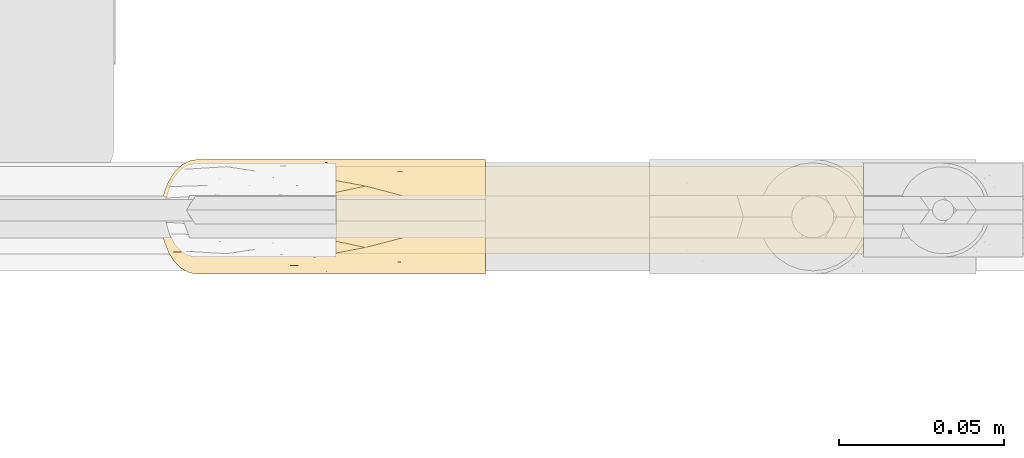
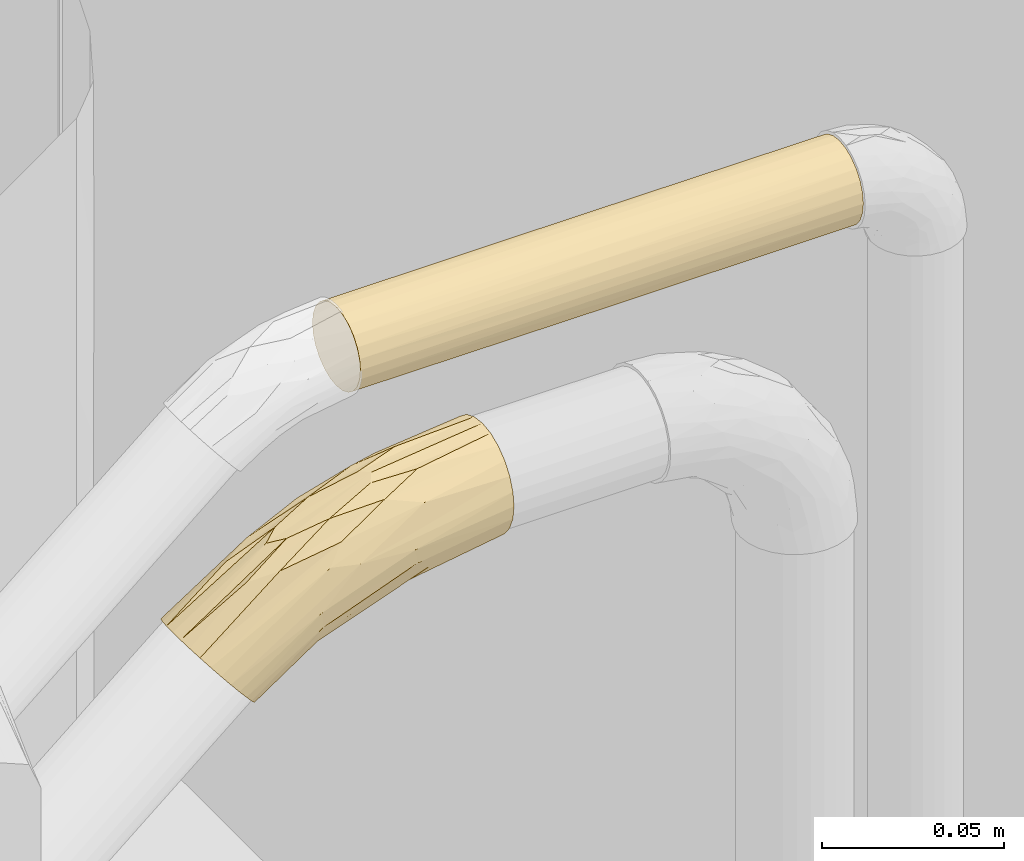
# One storey, part 4 of 32: 2 coverings.
"""IFC2X3 building model written with IfcOpenShell, lengths in metres."""

from ifc_helpers import new_model, entity, si_unit, converted_unit, derived_unit, direction, frame, origin, place, context, subcontext, project, spatial, faceted_brep, material, type_object, element, save


model = new_model("IFC2X3")

# Units and contexts
model_context = context("Model", 3, precision=1e-05, world=origin(), true_north=direction((6.123031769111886e-17, 1.0)))
body_context = subcontext(model_context, "Body", "Model", "MODEL_VIEW")
ifc_project = project(units=[si_unit("LENGTHUNIT", "METRE"), si_unit("AREAUNIT", "SQUARE_METRE"), si_unit("VOLUMEUNIT", "CUBIC_METRE"), converted_unit("PLANEANGLEUNIT", "DEGREE", entity("IfcPlaneAngleMeasure", 0.017453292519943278), si_unit("PLANEANGLEUNIT", "RADIAN"), dimensions=[0, 0, 0, 0, 0, 0, 0]), si_unit("MASSUNIT", "GRAM", prefix="KILO"), derived_unit("MASSDENSITYUNIT", [(si_unit("MASSUNIT", "GRAM", prefix="KILO"), 1), (si_unit("LENGTHUNIT", "METRE"), -3)]), derived_unit("IONCONCENTRATIONUNIT", [(si_unit("MASSUNIT", "GRAM", prefix="KILO"), 1), (si_unit("LENGTHUNIT", "METRE"), -3)]), derived_unit("MOMENTOFINERTIAUNIT", [(si_unit("LENGTHUNIT", "METRE"), 4)]), si_unit("TIMEUNIT", "SECOND"), si_unit("FREQUENCYUNIT", "HERTZ"), si_unit("THERMODYNAMICTEMPERATUREUNIT", "DEGREE_CELSIUS"), derived_unit("THERMALTRANSMITTANCEUNIT", [(si_unit("MASSUNIT", "GRAM", prefix="KILO"), 1), (si_unit("THERMODYNAMICTEMPERATUREUNIT", "KELVIN"), -1), (si_unit("TIMEUNIT", "SECOND"), -3)]), derived_unit("THERMALCONDUCTANCEUNIT", [(si_unit("MASSUNIT", "GRAM", prefix="KILO"), 1), (si_unit("THERMODYNAMICTEMPERATUREUNIT", "KELVIN"), -1), (si_unit("TIMEUNIT", "SECOND"), -3), (si_unit("LENGTHUNIT", "METRE"), 1)]), derived_unit("VOLUMETRICFLOWRATEUNIT", [(si_unit("LENGTHUNIT", "METRE", prefix="DECI"), 3), (si_unit("TIMEUNIT", "SECOND"), -1)]), derived_unit("MASSFLOWRATEUNIT", [(si_unit("MASSUNIT", "GRAM", prefix="KILO"), 1), (si_unit("TIMEUNIT", "SECOND"), -1)]), derived_unit("ROTATIONALFREQUENCYUNIT", [(si_unit("TIMEUNIT", "SECOND"), -1)]), si_unit("ELECTRICCURRENTUNIT", "AMPERE"), si_unit("ELECTRICVOLTAGEUNIT", "VOLT"), si_unit("POWERUNIT", "WATT"), si_unit("FORCEUNIT", "NEWTON", prefix="KILO"), si_unit("ILLUMINANCEUNIT", "LUX"), si_unit("LUMINOUSFLUXUNIT", "LUMEN"), si_unit("LUMINOUSINTENSITYUNIT", "CANDELA"), si_unit("ENERGYUNIT", "JOULE"), derived_unit("USERDEFINED", [(si_unit("MASSUNIT", "GRAM", prefix="KILO"), -1), (si_unit("LENGTHUNIT", "METRE"), -2), (si_unit("TIMEUNIT", "SECOND"), 3), (si_unit("LUMINOUSFLUXUNIT", "LUMEN"), 1)]), derived_unit("USERDEFINED", [(si_unit("MASSUNIT", "GRAM", prefix="KILO"), 1), (si_unit("TIMEUNIT", "SECOND"), -3), (si_unit("LENGTHUNIT", "METRE"), 3), (si_unit("ELECTRICCURRENTUNIT", "AMPERE"), -2)]), derived_unit("SOUNDPOWERUNIT", [(si_unit("MASSUNIT", "GRAM", prefix="KILO"), 1), (si_unit("TIMEUNIT", "SECOND"), -3), (si_unit("LENGTHUNIT", "METRE"), 2)]), derived_unit("SOUNDPRESSUREUNIT", [(si_unit("MASSUNIT", "GRAM", prefix="KILO"), 1), (si_unit("LENGTHUNIT", "METRE"), -1), (si_unit("TIMEUNIT", "SECOND"), -2)]), derived_unit("LINEARVELOCITYUNIT", [(si_unit("LENGTHUNIT", "METRE"), 1), (si_unit("TIMEUNIT", "SECOND"), -1)]), si_unit("PRESSUREUNIT", "PASCAL"), derived_unit("USERDEFINED", [(si_unit("MASSUNIT", "GRAM", prefix="KILO"), 1), (si_unit("LENGTHUNIT", "METRE"), -2), (si_unit("TIMEUNIT", "SECOND"), -2)]), derived_unit("LINEARFORCEUNIT", [(si_unit("MASSUNIT", "GRAM", prefix="KILO"), 1), (si_unit("TIMEUNIT", "SECOND"), -2)]), derived_unit("PLANARFORCEUNIT", [(si_unit("MASSUNIT", "GRAM", prefix="KILO"), 1), (si_unit("LENGTHUNIT", "METRE"), -1), (si_unit("TIMEUNIT", "SECOND"), -2)]), derived_unit("SPECIFICHEATCAPACITYUNIT", [(si_unit("THERMODYNAMICTEMPERATUREUNIT", "KELVIN"), -1), (si_unit("LENGTHUNIT", "METRE"), 2), (si_unit("TIMEUNIT", "SECOND"), -2)]), derived_unit("HEATFLUXDENSITYUNIT", [(si_unit("MASSUNIT", "GRAM", prefix="KILO"), 1), (si_unit("TIMEUNIT", "SECOND"), -3)]), derived_unit("HEATINGVALUEUNIT", [(si_unit("LENGTHUNIT", "METRE"), 2), (si_unit("TIMEUNIT", "SECOND"), -2)]), derived_unit("VAPORPERMEABILITYUNIT", [(si_unit("LENGTHUNIT", "METRE"), -1), (si_unit("TIMEUNIT", "SECOND"), 1)]), derived_unit("DYNAMICVISCOSITYUNIT", [(si_unit("MASSUNIT", "GRAM", prefix="KILO"), 1), (si_unit("TIMEUNIT", "SECOND"), -1), (si_unit("LENGTHUNIT", "METRE"), -1)]), derived_unit("THERMALEXPANSIONCOEFFICIENTUNIT", [(si_unit("THERMODYNAMICTEMPERATUREUNIT", "KELVIN"), -1)]), derived_unit("MODULUSOFELASTICITYUNIT", [(si_unit("MASSUNIT", "GRAM", prefix="KILO"), 1), (si_unit("LENGTHUNIT", "METRE"), -1), (si_unit("TIMEUNIT", "SECOND"), -2)]), derived_unit("ISOTHERMALMOISTURECAPACITYUNIT", [(si_unit("MASSUNIT", "GRAM", prefix="KILO"), -1), (si_unit("LENGTHUNIT", "METRE"), 3)]), derived_unit("MOISTUREDIFFUSIVITYUNIT", [(si_unit("TIMEUNIT", "SECOND"), -1), (si_unit("LENGTHUNIT", "METRE"), 2)]), derived_unit("MASSPERLENGTHUNIT", [(si_unit("MASSUNIT", "GRAM", prefix="KILO"), 1), (si_unit("LENGTHUNIT", "METRE"), -1)]), derived_unit("THERMALRESISTANCEUNIT", [(si_unit("MASSUNIT", "GRAM", prefix="KILO"), -1), (si_unit("TIMEUNIT", "SECOND"), 3), (si_unit("THERMODYNAMICTEMPERATUREUNIT", "KELVIN"), 1)]), derived_unit("ACCELERATIONUNIT", [(si_unit("LENGTHUNIT", "METRE"), 1), (si_unit("TIMEUNIT", "SECOND"), -2)]), derived_unit("ANGULARVELOCITYUNIT", [(si_unit("TIMEUNIT", "SECOND"), -1), (si_unit("PLANEANGLEUNIT", "RADIAN"), 1)]), derived_unit("LINEARSTIFFNESSUNIT", [(si_unit("MASSUNIT", "GRAM", prefix="KILO"), 1), (si_unit("TIMEUNIT", "SECOND"), -2)]), derived_unit("WARPINGCONSTANTUNIT", [(si_unit("LENGTHUNIT", "METRE"), 6)]), derived_unit("LINEARMOMENTUNIT", [(si_unit("MASSUNIT", "GRAM", prefix="KILO"), 1), (si_unit("LENGTHUNIT", "METRE"), 1), (si_unit("TIMEUNIT", "SECOND"), -2)]), derived_unit("TORQUEUNIT", [(si_unit("MASSUNIT", "GRAM", prefix="KILO"), 1), (si_unit("LENGTHUNIT", "METRE"), 2), (si_unit("TIMEUNIT", "SECOND"), -2)])], contexts=[model_context])

# Site, building, storey
site_placement = place(None, origin())
site = spatial("IfcSite", under=ifc_project, at=site_placement, Name="Default", CompositionType="ELEMENT")
building_placement = place(site_placement, origin())
building = spatial("IfcBuilding", under=site, at=building_placement, CompositionType="ELEMENT")
storey_placement = place(building_placement, origin())
storey = spatial("IfcBuildingStorey", under=building, at=storey_placement, Name="Niveau 0", CompositionType="ELEMENT", Elevation=-1.949160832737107e-14)

# Coverings
ifc_material = material(Name="Matériau du rendu 255-255-255")
covering_type = type_object("IfcCoveringType", Name="Isolation des canalisations:Par défaut", PredefinedType="INSULATION")
covering_1_placement = place(storey_placement, frame((-15.154469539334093, 1.362257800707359, 0.07854831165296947)))
element("IfcCovering", 1, at=covering_1_placement, inside=storey, type_object=covering_type, material=ifc_material, Name="Isolation des canalisations:Par défaut", ObjectType="Isolation des canalisations:Par défaut", PredefinedType="INSULATION", context=body_context, shape_type="Brep", body=[
    faceted_brep([(0.0, 0.005461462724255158, 0.005461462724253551), (0.0, 0.003363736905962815, 0.008195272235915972), (0.0, 0.0020450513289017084, 0.011378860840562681), (0.0, 0.001595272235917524, 0.014795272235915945), (0.0, 0.0020450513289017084, 0.018211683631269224), (0.0, 0.003363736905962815, 0.02139527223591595), (0.0, 0.005461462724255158, 0.024129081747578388), (0.0, 0.008195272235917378, 0.026226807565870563), (0.0, 0.011378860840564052, 0.027545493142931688), (0.0, 0.0147952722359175, 0.02799527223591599), (0.0, 0.01821168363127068, 0.027545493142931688), (0.0, 0.021395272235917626, 0.02622680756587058), (0.0, 0.024129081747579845, 0.024129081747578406), (0.0, 0.026226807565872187, 0.021395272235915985), (0.0, 0.027545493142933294, 0.01821168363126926), (0.0, 0.027995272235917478, 0.014795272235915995), (0.0, 0.027545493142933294, 0.011378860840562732), (0.0, 0.026226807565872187, 0.008195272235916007), (0.0, 0.024129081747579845, 0.005461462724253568), (0.0, 0.021395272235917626, 0.003363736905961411), (0.0, 0.01821168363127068, 0.0020450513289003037), (0.0, 0.0147952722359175, 0.0015952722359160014), (0.0, 0.011378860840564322, 0.0020450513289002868), (0.0, 0.008195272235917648, 0.003363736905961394), (0.15944880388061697, 0.002045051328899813, 0.01137886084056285), (0.15944880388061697, 0.00336373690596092, 0.008195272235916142), (0.15944880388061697, 0.005461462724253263, 0.00546146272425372), (0.15944880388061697, 0.008195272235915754, 0.003363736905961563), (0.15944880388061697, 0.011378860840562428, 0.0020450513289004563), (0.15944880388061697, 0.014795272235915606, 0.0015952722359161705), (0.15944880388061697, 0.018211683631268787, 0.0020450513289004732), (0.15944880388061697, 0.02139527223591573, 0.00336373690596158), (0.15944880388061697, 0.02412908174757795, 0.005461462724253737), (0.15944880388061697, 0.026226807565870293, 0.008195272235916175), (0.15944880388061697, 0.0275454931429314, 0.011378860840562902), (0.15944880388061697, 0.027995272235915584, 0.014795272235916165), (0.15944880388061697, 0.0275454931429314, 0.01821168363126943), (0.15944880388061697, 0.026226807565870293, 0.021395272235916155), (0.15944880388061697, 0.02412908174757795, 0.024129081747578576), (0.15944880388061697, 0.02139527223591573, 0.02622680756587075), (0.15944880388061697, 0.018211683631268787, 0.027545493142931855), (0.15944880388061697, 0.014795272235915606, 0.02799527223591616), (0.15944880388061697, 0.011378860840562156, 0.027545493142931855), (0.15944880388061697, 0.008195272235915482, 0.026226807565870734), (0.15944880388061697, 0.005461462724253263, 0.024129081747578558), (0.15944880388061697, 0.00336373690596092, 0.02139527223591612), (0.15944880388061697, 0.002045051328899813, 0.018211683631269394), (0.15944880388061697, 0.001595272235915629, 0.01479527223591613), (0.07972440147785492, 0.025267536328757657, 0.006759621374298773), (0.07972440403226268, 0.02699048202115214, 0.00974385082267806), (0.08740952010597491, 0.027753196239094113, 0.012278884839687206), (0.06342996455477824, 0.027995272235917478, 0.014795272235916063), (0.09601885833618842, 0.014795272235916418, 0.0015952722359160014), (0.07203928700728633, 0.017311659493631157, 0.0018373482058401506), (0.07972440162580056, 0.022830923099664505, 0.004323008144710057), (0.07972440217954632, 0.019846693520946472, 0.0026000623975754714), (0.09601884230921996, 0.027995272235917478, 0.014795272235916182), (0.06342996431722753, 0.01479527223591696, 0.0015952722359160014), (0.07972440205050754, 0.009743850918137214, 0.0026000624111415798), (0.08740951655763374, 0.012278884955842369, 0.0018373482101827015), (0.07203928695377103, 0.0018373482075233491, 0.012278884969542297), (0.0797244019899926, 0.0026000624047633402, 0.009743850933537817), (0.07972440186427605, 0.006759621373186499, 0.004323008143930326), (0.0797244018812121, 0.004323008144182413, 0.006759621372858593), (0.09601884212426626, 0.001595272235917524, 0.014795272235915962), (0.06343006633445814, 0.001595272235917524, 0.01479527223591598), (0.07972440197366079, 0.002600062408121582, 0.019846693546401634), (0.08740951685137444, 0.001837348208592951, 0.01731165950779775), (0.07203928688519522, 0.012278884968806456, 0.02775319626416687), (0.07972440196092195, 0.009743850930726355, 0.026990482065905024), (0.07972440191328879, 0.0043230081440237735, 0.022830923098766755), (0.0797244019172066, 0.006759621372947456, 0.02526753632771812), (0.09601884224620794, 0.014795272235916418, 0.02799527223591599), (0.06342996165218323, 0.014795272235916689, 0.027995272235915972), (0.07972440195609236, 0.01984669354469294, 0.0269904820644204), (0.08740951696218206, 0.017311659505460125, 0.027753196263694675), (0.0720392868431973, 0.02775319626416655, 0.017311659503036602), (0.0797244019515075, 0.026990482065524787, 0.019846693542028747), (0.07972440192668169, 0.022830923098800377, 0.025267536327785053), (0.0797244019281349, 0.02526753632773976, 0.02283092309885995)], [[[0, 1, 2, 3, 4, 5, 6, 7, 8, 9, 10, 11, 12, 13, 14, 15, 16, 17, 18, 19, 20, 21, 22, 23]], [[24, 25, 26, 27, 28, 29, 30, 31, 32, 33, 34, 35, 36, 37, 38, 39, 40, 41, 42, 43, 44, 45, 46, 47]], [[48, 49, 33]], [[50, 16, 51]], [[34, 33, 49]], [[50, 34, 49]], [[16, 49, 17]], [[34, 50, 35]], [[30, 52, 53]], [[16, 15, 51]], [[48, 18, 17]], [[32, 48, 33]], [[54, 48, 32]], [[49, 48, 17]], [[55, 31, 30]], [[50, 51, 56, 35]], [[16, 50, 49]], [[21, 20, 53]], [[54, 19, 18]], [[55, 54, 31]], [[30, 29, 52]], [[55, 19, 54]], [[48, 54, 18]], [[53, 20, 55]], [[31, 54, 32]], [[30, 53, 55]], [[53, 52, 57, 21]], [[19, 55, 20]], [[58, 59, 28]], [[24, 60, 61]], [[59, 57, 52, 29]], [[58, 28, 27]], [[22, 21, 57]], [[59, 29, 28]], [[22, 58, 23]], [[22, 57, 59]], [[62, 0, 23]], [[62, 58, 27]], [[63, 62, 26]], [[60, 64, 65, 3]], [[61, 25, 24]], [[24, 47, 64]], [[60, 2, 61]], [[3, 2, 60]], [[63, 1, 0]], [[61, 63, 25]], [[24, 64, 60]], [[61, 1, 63]], [[62, 63, 0]], [[26, 62, 27]], [[1, 61, 2]], [[25, 63, 26]], [[22, 59, 58]], [[58, 62, 23]], [[66, 67, 46]], [[42, 68, 69]], [[67, 65, 64, 47]], [[66, 46, 45]], [[4, 3, 65]], [[67, 47, 46]], [[4, 66, 5]], [[4, 65, 67]], [[70, 6, 5]], [[70, 66, 45]], [[71, 70, 44]], [[68, 72, 73, 9]], [[69, 43, 42]], [[42, 41, 72]], [[68, 8, 69]], [[9, 8, 68]], [[71, 7, 6]], [[69, 71, 43]], [[42, 72, 68]], [[69, 7, 71]], [[70, 71, 6]], [[44, 70, 45]], [[7, 69, 8]], [[43, 71, 44]], [[4, 67, 66]], [[66, 70, 5]], [[74, 75, 40]], [[36, 76, 77]], [[75, 73, 72, 41]], [[74, 40, 39]], [[10, 9, 73]], [[75, 41, 40]], [[10, 74, 11]], [[10, 73, 75]], [[78, 12, 11]], [[78, 74, 39]], [[79, 78, 38]], [[76, 56, 51, 15]], [[77, 37, 36]], [[36, 35, 56]], [[76, 14, 77]], [[15, 14, 76]], [[79, 13, 12]], [[77, 79, 37]], [[36, 56, 76]], [[77, 13, 79]], [[78, 79, 12]], [[38, 78, 39]], [[13, 77, 14]], [[37, 79, 38]], [[10, 75, 74]], [[74, 78, 11]]]),
])
covering_2_placement = place(storey_placement, frame((-15.209137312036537, 1.3561078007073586, -0.010903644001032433)))
element("IfcCovering", 2, at=covering_2_placement, inside=storey, type_object=covering_type, material=ifc_material, Name="Isolation des canalisations:Par défaut", ObjectType="Isolation des canalisations:Par défaut", PredefinedType="INSULATION", context=body_context, shape_type="Brep", body=[
    faceted_brep([(0.022794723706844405, 0.011414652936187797, 0.0029124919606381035), (0.02146555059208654, 0.008125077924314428, 0.0044965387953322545), (0.01969939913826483, 0.0053784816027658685, 0.006601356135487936), (0.01758485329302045, 0.003312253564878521, 0.009121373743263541), (0.01522785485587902, 0.002029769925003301, 0.01193033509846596), (0.012747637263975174, 0.0015952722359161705, 0.014886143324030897), (0.010264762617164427, 0.0020307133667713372, 0.01784511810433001), (0.007907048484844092, 0.0033147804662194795, 0.02065493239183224), (0.005792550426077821, 0.0053826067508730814, 0.023174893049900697), (0.00402707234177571, 0.008130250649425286, 0.02527890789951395), (0.0026989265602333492, 0.011419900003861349, 0.026861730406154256), (0.0018745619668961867, 0.015086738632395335, 0.02784416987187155), (0.001595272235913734, 0.018945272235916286, 0.02817701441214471), (0.0018751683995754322, 0.022807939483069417, 0.027843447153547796), (0.0027005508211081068, 0.026475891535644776, 0.02685979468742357), (0.004029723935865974, 0.029765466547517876, 0.025275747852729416), (0.005795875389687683, 0.03251206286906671, 0.023170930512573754), (0.007910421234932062, 0.03457829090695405, 0.020650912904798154), (0.010267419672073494, 0.035860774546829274, 0.017841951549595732), (0.012747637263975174, 0.0362952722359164, 0.014886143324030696), (0.015230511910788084, 0.03585983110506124, 0.01192716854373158), (0.01758822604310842, 0.034575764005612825, 0.009117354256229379), (0.01970272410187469, 0.032507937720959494, 0.00659739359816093), (0.021468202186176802, 0.029760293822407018, 0.00449337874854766), (0.022796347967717, 0.026470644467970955, 0.0029105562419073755), (0.023620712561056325, 0.02280380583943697, 0.0019281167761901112), (0.02390000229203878, 0.018945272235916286, 0.0015952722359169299), (0.02362010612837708, 0.015082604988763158, 0.0019288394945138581), (0.09981380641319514, 0.02762027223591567, 0.03155061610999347), (0.09981377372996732, 0.031213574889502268, 0.034307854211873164), (0.09981373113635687, 0.03397081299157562, 0.0379011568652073), (0.09981368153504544, 0.03570408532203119, 0.04208564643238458), (0.09981362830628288, 0.03629527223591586, 0.04657615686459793), (0.09981357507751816, 0.03570408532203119, 0.05106666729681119), (0.09981352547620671, 0.033970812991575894, 0.05525115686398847), (0.09981348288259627, 0.031213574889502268, 0.058844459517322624), (0.09981345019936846, 0.02762027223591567, 0.06160169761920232), (0.09981342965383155, 0.023435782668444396, 0.06333496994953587), (0.09981342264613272, 0.018945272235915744, 0.06392615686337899), (0.09981342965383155, 0.014454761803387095, 0.06333496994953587), (0.09981345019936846, 0.010270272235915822, 0.06160169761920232), (0.09981348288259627, 0.006676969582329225, 0.0588444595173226), (0.09981352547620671, 0.0039197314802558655, 0.05525115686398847), (0.09981357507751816, 0.0021864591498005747, 0.05106666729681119), (0.09981362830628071, 0.0015952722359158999, 0.04657615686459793), (0.09981368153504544, 0.0021864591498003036, 0.04208564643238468), (0.09981373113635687, 0.0039197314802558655, 0.03790115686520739), (0.09981377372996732, 0.006676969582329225, 0.03430785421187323), (0.09981380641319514, 0.010270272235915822, 0.03155061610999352), (0.09981382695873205, 0.014454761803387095, 0.02981734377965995), (0.09981383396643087, 0.018945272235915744, 0.029226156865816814), (0.09981382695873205, 0.023435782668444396, 0.029817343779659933), (0.03589892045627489, 0.015778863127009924, 0.04959518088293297), (0.021702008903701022, 0.013253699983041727, 0.041332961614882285), (0.06457523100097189, 0.018945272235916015, 0.05980705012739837), (0.06244201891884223, 0.01566942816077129, 0.0589633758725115), (0.06347820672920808, 0.009653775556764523, 0.05676391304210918), (0.047911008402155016, 0.013007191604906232, 0.05372608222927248), (0.03028608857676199, 0.009781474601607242, 0.0442448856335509), (0.07558462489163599, 0.01279859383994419, 0.06085292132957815), (0.051624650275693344, 0.0024716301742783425, 0.043523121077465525), (0.048014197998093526, 0.006788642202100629, 0.049582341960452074), (0.07357242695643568, 0.005236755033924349, 0.05483454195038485), (0.06857654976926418, 0.0015952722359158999, 0.042924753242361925), (0.031236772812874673, 0.018945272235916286, 0.04767261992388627), (0.04318305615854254, 0.0042079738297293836, 0.04418177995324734), (0.0390234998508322, 0.0015952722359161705, 0.03216812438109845), (0.06963617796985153, 0.002500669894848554, 0.03749095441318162), (0.05565790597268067, 0.004129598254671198, 0.029585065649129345), (0.07880718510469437, 0.005116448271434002, 0.034319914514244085), (0.03993713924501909, 0.0025082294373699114, 0.026398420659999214), (0.0591116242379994, 0.013416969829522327, 0.022953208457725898), (0.06184994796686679, 0.008267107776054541, 0.026832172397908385), (0.07257786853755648, 0.018945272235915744, 0.026042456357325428), (0.040438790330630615, 0.006599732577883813, 0.019141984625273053), (0.04065432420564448, 0.009647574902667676, 0.016450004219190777), (0.034324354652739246, 0.004197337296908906, 0.01913325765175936), (0.0468102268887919, 0.018945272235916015, 0.016663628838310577), (0.059111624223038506, 0.024473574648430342, 0.022953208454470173), (0.06964641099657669, 0.035387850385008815, 0.03748721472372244), (0.0788203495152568, 0.032774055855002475, 0.03432210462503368), (0.05566151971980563, 0.03375767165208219, 0.02958068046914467), (0.04066671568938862, 0.028237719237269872, 0.016453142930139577), (0.06184994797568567, 0.029623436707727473, 0.02683217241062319), (0.06857654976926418, 0.03629527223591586, 0.04292475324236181), (0.04042705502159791, 0.03128608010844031, 0.01913006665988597), (0.039943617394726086, 0.035380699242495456, 0.026396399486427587), (0.0390234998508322, 0.03629527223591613, 0.03216812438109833), (0.034327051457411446, 0.03368991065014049, 0.01912867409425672), (0.051624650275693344, 0.035418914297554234, 0.043523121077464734), (0.062396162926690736, 0.02221924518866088, 0.05895214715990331), (0.021699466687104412, 0.024641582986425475, 0.04132951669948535), (0.03586644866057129, 0.02211310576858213, 0.049579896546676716), (0.04325856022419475, 0.033684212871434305, 0.04421101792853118), (0.07359304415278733, 0.03265383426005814, 0.0548382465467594), (0.04801577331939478, 0.031106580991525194, 0.04957802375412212), (0.030313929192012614, 0.028114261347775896, 0.044255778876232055), (0.06357921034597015, 0.028239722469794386, 0.05678714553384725), (0.07557132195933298, 0.025086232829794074, 0.060852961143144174), (0.04791100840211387, 0.024883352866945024, 0.05372608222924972)], [[[0, 1, 2, 3, 4, 5, 6, 7, 8, 9, 10, 11, 12, 13, 14, 15, 16, 17, 18, 19, 20, 21, 22, 23, 24, 25, 26, 27]], [[28, 29, 30, 31, 32, 33, 34, 35, 36, 37, 38, 39, 40, 41, 42, 43, 44, 45, 46, 47, 48, 49, 50, 51]], [[52, 11, 53]], [[38, 54, 55]], [[56, 57, 58]], [[39, 55, 59]], [[7, 6, 60]], [[9, 58, 10]], [[56, 58, 61]], [[62, 60, 42]], [[43, 63, 44]], [[63, 43, 60]], [[42, 60, 43]], [[59, 40, 39]], [[42, 41, 62]], [[56, 61, 62]], [[52, 54, 64]], [[9, 61, 58]], [[9, 8, 61]], [[57, 53, 58]], [[11, 10, 53]], [[11, 64, 12]], [[40, 59, 56]], [[57, 56, 59]], [[56, 41, 40]], [[38, 55, 39]], [[8, 7, 65]], [[5, 66, 6]], [[66, 63, 60]], [[60, 6, 66]], [[11, 52, 64]], [[52, 57, 55]], [[62, 65, 60]], [[52, 53, 57]], [[59, 55, 57]], [[55, 54, 52]], [[56, 62, 41]], [[58, 53, 10]], [[62, 61, 65]], [[8, 65, 61]], [[7, 60, 65]], [[67, 68, 69]], [[45, 44, 63]], [[46, 69, 47]], [[66, 67, 63]], [[66, 4, 70]], [[0, 27, 71]], [[72, 48, 47]], [[49, 73, 50]], [[73, 49, 71]], [[63, 67, 45]], [[67, 46, 45]], [[72, 71, 48]], [[74, 2, 1]], [[66, 70, 67]], [[74, 75, 72]], [[1, 0, 75]], [[76, 3, 2]], [[76, 74, 68]], [[70, 3, 76]], [[5, 4, 66]], [[70, 68, 67]], [[67, 69, 46]], [[71, 75, 0]], [[69, 74, 72]], [[26, 77, 27]], [[48, 71, 49]], [[73, 71, 77]], [[77, 71, 27]], [[75, 74, 1]], [[72, 75, 71]], [[69, 72, 47]], [[70, 76, 68]], [[70, 4, 3]], [[69, 68, 74]], [[74, 76, 2]], [[28, 51, 78]], [[25, 24, 78]], [[50, 73, 51]], [[79, 80, 81]], [[78, 24, 82]], [[78, 83, 28]], [[32, 31, 84]], [[85, 82, 23]], [[80, 79, 30]], [[80, 85, 81]], [[28, 83, 29]], [[86, 79, 81]], [[20, 87, 86]], [[79, 86, 87]], [[77, 78, 73]], [[77, 26, 25]], [[85, 88, 81]], [[86, 21, 20]], [[29, 80, 30]], [[23, 22, 85]], [[73, 78, 51]], [[24, 23, 82]], [[85, 83, 82]], [[31, 79, 84]], [[88, 22, 21]], [[83, 85, 80]], [[88, 85, 22]], [[20, 19, 87]], [[81, 88, 86]], [[30, 79, 31]], [[79, 87, 84]], [[86, 88, 21]], [[25, 78, 77]], [[83, 80, 29]], [[78, 82, 83]], [[34, 33, 89]], [[38, 90, 54]], [[32, 84, 33]], [[13, 91, 14]], [[54, 92, 64]], [[89, 93, 94]], [[37, 90, 38]], [[89, 94, 34]], [[95, 96, 97]], [[36, 98, 37]], [[35, 94, 97]], [[92, 90, 99]], [[97, 99, 98]], [[98, 36, 97]], [[87, 89, 84]], [[98, 90, 37]], [[87, 19, 18]], [[34, 94, 35]], [[93, 16, 95]], [[92, 13, 64]], [[35, 97, 36]], [[89, 33, 84]], [[96, 91, 99]], [[15, 95, 16]], [[54, 90, 92]], [[96, 15, 14]], [[13, 12, 64]], [[97, 96, 99]], [[93, 95, 94]], [[99, 91, 92]], [[95, 15, 96]], [[91, 96, 14]], [[98, 99, 90]], [[18, 89, 87]], [[13, 92, 91]], [[18, 17, 89]], [[97, 94, 95]], [[89, 17, 93]], [[16, 93, 17]]]),
])

save(model, "model.ifc")
